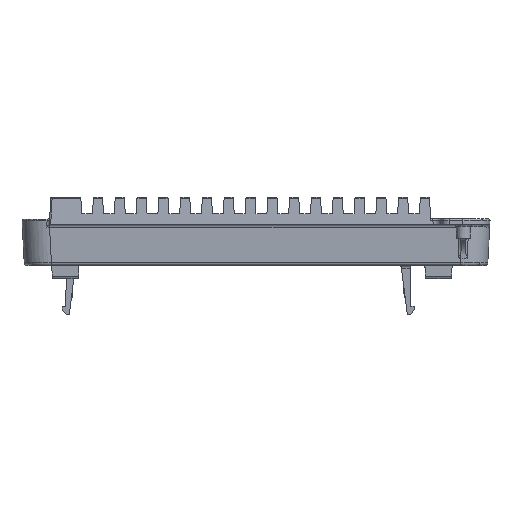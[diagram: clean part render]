
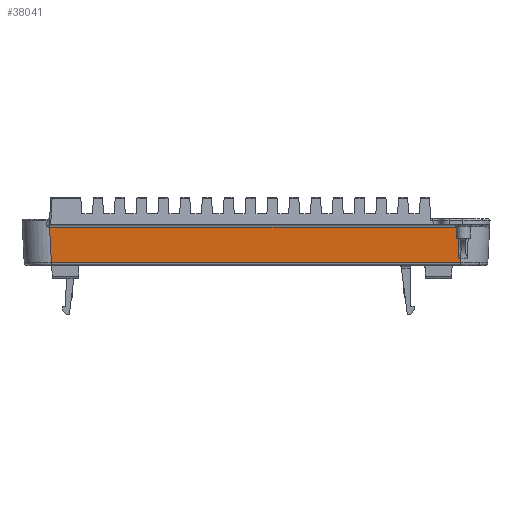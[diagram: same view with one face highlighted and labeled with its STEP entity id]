
A CAD part, top view. The second image highlights one B-rep face of the part: STEP entity #38041.
In plain terms, the highlighted planar face has unit normal (0, -0.052, 0.999).
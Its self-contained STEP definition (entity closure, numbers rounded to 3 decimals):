
#102 = DIRECTION ( 'NONE',  ( 1., 0., 0. ) ) ;
#129 = PLANE ( 'NONE',  #5345 ) ;
#927 = CARTESIAN_POINT ( 'NONE',  ( 71.612, -7.663, 64.098 ) ) ;
#3050 = DIRECTION ( 'NONE',  ( 0., -0.999, -0.052 ) ) ;
#3852 = DIRECTION ( 'NONE',  ( 0.052, 0.997, 0.052 ) ) ;
#4154 = VECTOR ( 'NONE', #102, 1000. ) ;
#4348 = ORIENTED_EDGE ( 'NONE', *, *, #30966, .T. ) ;
#5345 = AXIS2_PLACEMENT_3D ( 'NONE', #14902, #20717, #3050 ) ;
#6721 = CARTESIAN_POINT ( 'NONE',  ( 75.103, 58.948, 67.589 ) ) ;
#8623 = VERTEX_POINT ( 'NONE', #6721 ) ;
#8779 = ORIENTED_EDGE ( 'NONE', *, *, #32879, .T. ) ;
#9317 = VECTOR ( 'NONE', #17017, 1000. ) ;
#9455 = LINE ( 'NONE', #31558, #9317 ) ;
#9483 = DIRECTION ( 'NONE',  ( -1., 0., 0. ) ) ;
#14591 = VECTOR ( 'NONE', #3852, 1000. ) ;
#14631 = LINE ( 'NONE', #927, #14591 ) ;
#14663 = VERTEX_POINT ( 'NONE', #37128 ) ;
#14808 = VERTEX_POINT ( 'NONE', #25799 ) ;
#14902 = CARTESIAN_POINT ( 'NONE',  ( -75., 0., 64.5 ) ) ;
#16264 = VERTEX_POINT ( 'NONE', #37576 ) ;
#17017 = DIRECTION ( 'NONE',  ( 0.052, -0.997, -0.052 ) ) ;
#18637 = ORIENTED_EDGE ( 'NONE', *, *, #22906, .T. ) ;
#18976 = CARTESIAN_POINT ( 'NONE',  ( -75.79, 72.052, 68.276 ) ) ;
#19161 = ORIENTED_EDGE ( 'NONE', *, *, #26182, .T. ) ;
#19795 = ORIENTED_EDGE ( 'NONE', *, *, #24118, .T. ) ;
#20717 = DIRECTION ( 'NONE',  ( 0., -0.052, 0.999 ) ) ;
#21469 = VECTOR ( 'NONE', #24651, 1000. ) ;
#21786 = CARTESIAN_POINT ( 'NONE',  ( 73.93, 72., 68.273 ) ) ;
#22906 = EDGE_CURVE ( 'NONE', #8623, #14663, #14631, .T. ) ;
#22913 = LINE ( 'NONE', #21786, #21469 ) ;
#23356 = CARTESIAN_POINT ( 'NONE',  ( -75., 60.419, 67.666 ) ) ;
#23861 = VERTEX_POINT ( 'NONE', #24537 ) ;
#24118 = EDGE_CURVE ( 'NONE', #38200, #23861, #9455, .T. ) ;
#24537 = CARTESIAN_POINT ( 'NONE',  ( -75.103, 58.948, 67.589 ) ) ;
#24651 = DIRECTION ( 'NONE',  ( -0.052, 0.997, 0.052 ) ) ;
#25440 = EDGE_CURVE ( 'NONE', #14663, #16264, #38202, .T. ) ;
#25799 = CARTESIAN_POINT ( 'NONE',  ( 73.927, 72.052, 68.276 ) ) ;
#26182 = EDGE_CURVE ( 'NONE', #16264, #14808, #22913, .T. ) ;
#26455 = DIRECTION ( 'NONE',  ( -1., 0., 0. ) ) ;
#26655 = LINE ( 'NONE', #29493, #4154 ) ;
#29493 = CARTESIAN_POINT ( 'NONE',  ( 75.053, 58.948, 67.589 ) ) ;
#29544 = LINE ( 'NONE', #29918, #37458 ) ;
#29918 = CARTESIAN_POINT ( 'NONE',  ( -75., 72.052, 68.276 ) ) ;
#30815 = ORIENTED_EDGE ( 'NONE', *, *, #25440, .T. ) ;
#30945 = EDGE_LOOP ( 'NONE', ( #18637, #30815, #19161, #4348, #19795, #8779 ) ) ;
#30966 = EDGE_CURVE ( 'NONE', #14808, #38200, #29544, .T. ) ;
#31558 = CARTESIAN_POINT ( 'NONE',  ( -72.022, 0.156, 64.508 ) ) ;
#32879 = EDGE_CURVE ( 'NONE', #23861, #8623, #26655, .T. ) ;
#35113 = FACE_OUTER_BOUND ( 'NONE', #30945, .T. ) ;
#37128 = CARTESIAN_POINT ( 'NONE',  ( 75.18, 60.419, 67.666 ) ) ;
#37458 = VECTOR ( 'NONE', #9483, 1000. ) ;
#37576 = CARTESIAN_POINT ( 'NONE',  ( 74.536, 60.419, 67.666 ) ) ;
#38041 = ADVANCED_FACE ( 'NONE', ( #35113 ), #129, .T. ) ;
#38100 = VECTOR ( 'NONE', #26455, 1000. ) ;
#38200 = VERTEX_POINT ( 'NONE', #18976 ) ;
#38202 = LINE ( 'NONE', #23356, #38100 ) ;
